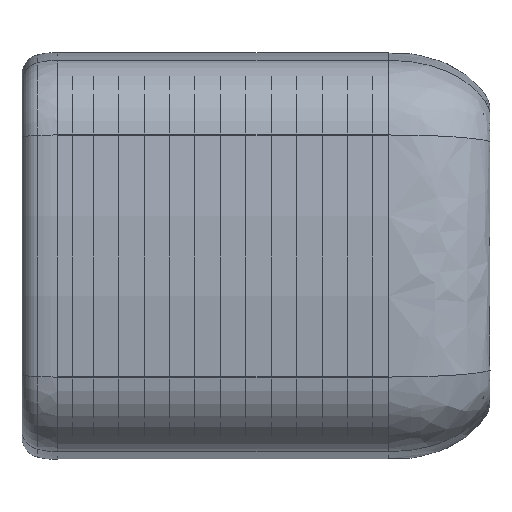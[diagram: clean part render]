
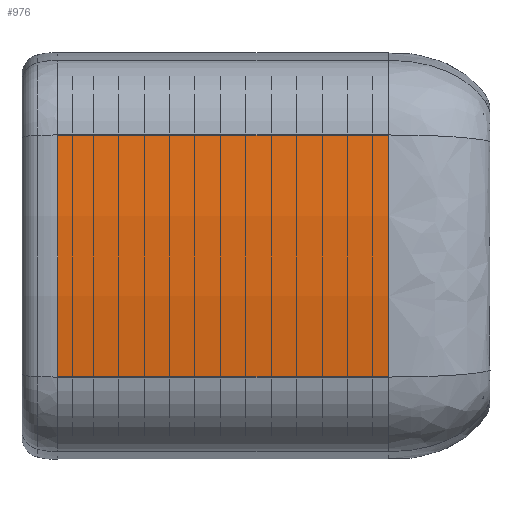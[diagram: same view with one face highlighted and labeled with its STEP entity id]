
A CAD part, left-side view. The second image highlights one B-rep face of the part: STEP entity #976.
In plain terms, the highlighted cylindrical face has radius 925 mm (diameter 1850 mm), a partial arc.
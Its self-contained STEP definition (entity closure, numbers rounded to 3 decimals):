
#154 = FACE_OUTER_BOUND ( 'NONE', #1410, .T. ) ;
#976 = ADVANCED_FACE ( 'NONE', ( #154 ), #18275, .T. ) ;
#1168 = VECTOR ( 'NONE', #9471, 1000. ) ;
#1410 = EDGE_LOOP ( 'NONE', ( #2521, #11966, #4771, #16552 ) ) ;
#1948 = CARTESIAN_POINT ( 'NONE',  ( 725., 100., 0. ) ) ;
#2521 = ORIENTED_EDGE ( 'NONE', *, *, #2896, .T. ) ;
#2886 = LINE ( 'NONE', #21021, #1168 ) ;
#2896 = EDGE_CURVE ( 'NONE', #4032, #16495, #12538, .T. ) ;
#3291 = DIRECTION ( 'NONE',  ( 0., 1., 0. ) ) ;
#3447 = EDGE_CURVE ( 'NONE', #8521, #4032, #2886, .T. ) ;
#3492 = DIRECTION ( 'NONE',  ( 0., 1., 0. ) ) ;
#4032 = VERTEX_POINT ( 'NONE', #20094 ) ;
#4771 = ORIENTED_EDGE ( 'NONE', *, *, #6463, .F. ) ;
#5588 = EDGE_CURVE ( 'NONE', #8197, #16495, #9972, .T. ) ;
#6288 = CARTESIAN_POINT ( 'NONE',  ( 725., 425., 0. ) ) ;
#6463 = EDGE_CURVE ( 'NONE', #8521, #8197, #15591, .T. ) ;
#6617 = VECTOR ( 'NONE', #3291, 1000. ) ;
#6749 = CARTESIAN_POINT ( 'NONE',  ( 725., 100., 0. ) ) ;
#7028 = DIRECTION ( 'NONE',  ( 0., 0., -1. ) ) ;
#8197 = VERTEX_POINT ( 'NONE', #14690 ) ;
#8521 = VERTEX_POINT ( 'NONE', #20163 ) ;
#8692 = AXIS2_PLACEMENT_3D ( 'NONE', #1948, #16612, #7028 ) ;
#9471 = DIRECTION ( 'NONE',  ( 0., 1., 0. ) ) ;
#9548 = AXIS2_PLACEMENT_3D ( 'NONE', #6749, #3492, #10073 ) ;
#9972 = LINE ( 'NONE', #18281, #6617 ) ;
#10073 = DIRECTION ( 'NONE',  ( 0., 0., 1. ) ) ;
#11348 = DIRECTION ( 'NONE',  ( 0., -1., 0. ) ) ;
#11966 = ORIENTED_EDGE ( 'NONE', *, *, #5588, .F. ) ;
#12538 = CIRCLE ( 'NONE', #18387, 925. ) ;
#14690 = CARTESIAN_POINT ( 'NONE',  ( -192.319, 100., -118.956 ) ) ;
#15591 = CIRCLE ( 'NONE', #8692, 925. ) ;
#16495 = VERTEX_POINT ( 'NONE', #18869 ) ;
#16552 = ORIENTED_EDGE ( 'NONE', *, *, #3447, .T. ) ;
#16612 = DIRECTION ( 'NONE',  ( 0., -1., 0. ) ) ;
#18275 = CYLINDRICAL_SURFACE ( 'NONE', #9548, 925. ) ;
#18281 = CARTESIAN_POINT ( 'NONE',  ( -192.319, 100., -118.956 ) ) ;
#18387 = AXIS2_PLACEMENT_3D ( 'NONE', #6288, #11348, #19877 ) ;
#18869 = CARTESIAN_POINT ( 'NONE',  ( -192.319, 425., -118.956 ) ) ;
#19877 = DIRECTION ( 'NONE',  ( 0., 0., -1. ) ) ;
#20094 = CARTESIAN_POINT ( 'NONE',  ( -192.319, 425., 118.956 ) ) ;
#20163 = CARTESIAN_POINT ( 'NONE',  ( -192.319, 100., 118.956 ) ) ;
#21021 = CARTESIAN_POINT ( 'NONE',  ( -192.319, 100., 118.956 ) ) ;
